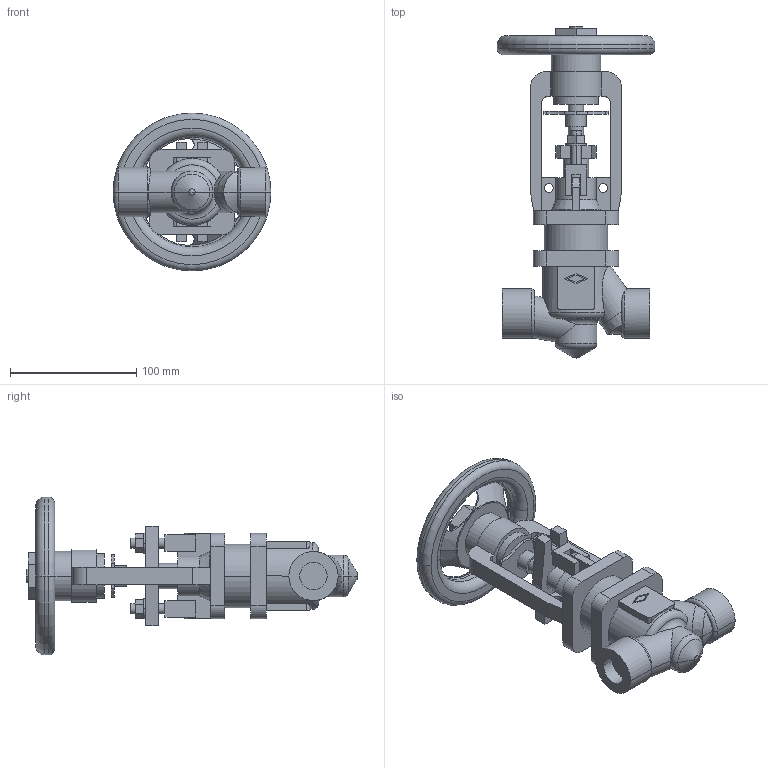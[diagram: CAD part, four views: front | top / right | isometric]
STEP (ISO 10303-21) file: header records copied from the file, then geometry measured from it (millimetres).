
FILE_DESCRIPTION(('OneSpaceDesigner STEP Export'),'2;1');
FILE_NAME('c000004265.stp','2010-05-04T10:45:49',(''),(''),'OneSpace Designer STEP processor for AP214 (Solid Model)','OneSpace Modeling 15.50B 03-Nov-2007 (C) CoCreate Software GmbH','');
FILE_SCHEMA(('AUTOMOTIVE_DESIGN { 1 0 10303 214 1 1 1 1 }'));
Length unit declared in the file: millimetre
Products named in the file (1): 1
Bounding box: 125 x 262.73 x 125 mm (x, y, z)
Volume: 601012.1 mm3; surface area: 112238.8 mm2
Topology: 1 solids, 1 shells, 282 faces, 749 edges, 488 vertices
Faces by surface type: plane 143, cylinder 97, torus 24, cone 16, sphere 2
Entity records: 11214 total; most frequent: CARTESIAN_POINT 2270, ORIENTED_EDGE 1498, DIRECTION 1260, EDGE_CURVE 749, VERTEX_POINT 488, AXIS2_PLACEMENT_3D 423, VECTOR 414, LINE 414
